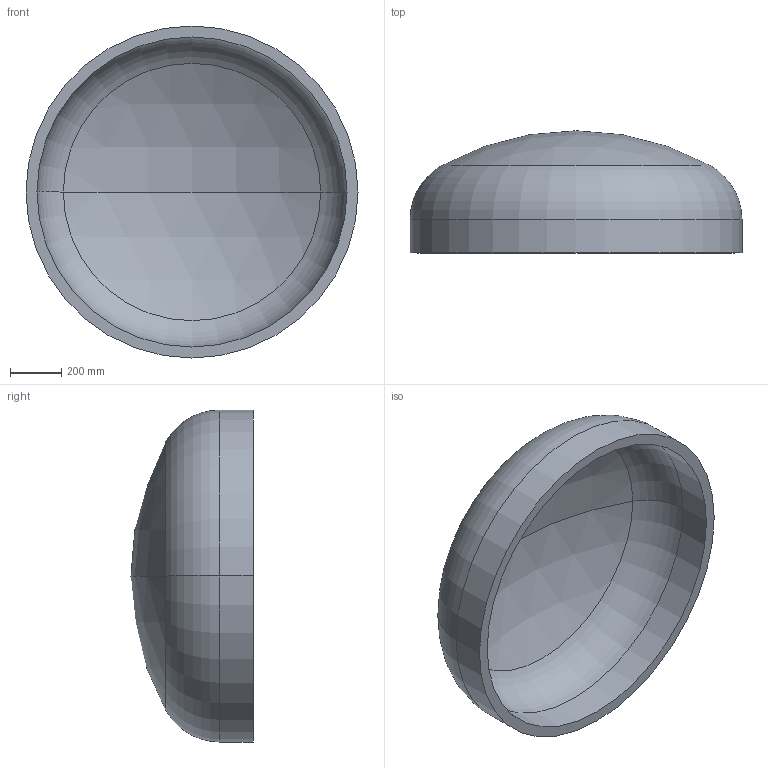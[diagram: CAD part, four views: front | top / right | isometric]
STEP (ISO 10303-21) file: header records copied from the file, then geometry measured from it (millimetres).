
FILE_DESCRIPTION (( 'STEP AP203' ), '1' );
FILE_NAME ('DIN 28013 Korbbogenform_-_Boden DIN 28013 - 1300 x 130 - I - s=43.step', '2016-07-01T09:51:56', ( '' ), ( '' ), 'SwSTEP 2.0', 'SolidWorks 2013', '' );
FILE_SCHEMA (( 'CONFIG_CONTROL_DESIGN' ));
Length unit declared in the file: millimetre
Products named in the file (1): DIN 28013 Korbbogenform_-_Boden DIN 28013 - 1300 x 130 - I - s=43
Bounding box: 1300 x 478.19 x 1300 mm (x, y, z)
Volume: 97772626.9 mm3; surface area: 4721241.6 mm2
Topology: 1 solids, 1 shells, 13 faces, 24 edges, 14 vertices
Faces by surface type: torus 4, cylinder 4, sphere 4, plane 1
Entity records: 407 total; most frequent: DIRECTION 72, CARTESIAN_POINT 52, ORIENTED_EDGE 48, AXIS2_PLACEMENT_3D 34, EDGE_CURVE 24, CIRCLE 20, EDGE_LOOP 14, VERTEX_POINT 14
